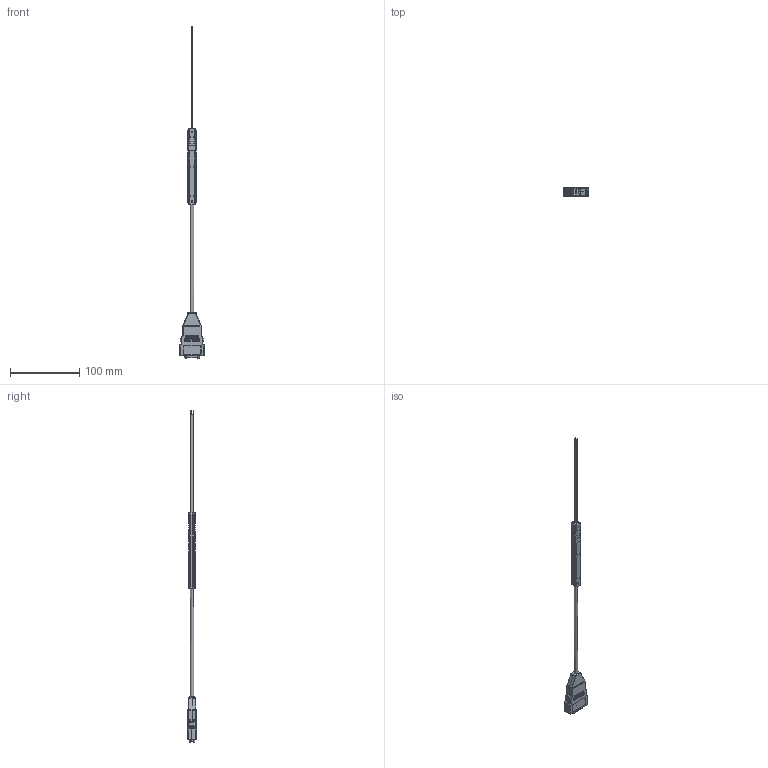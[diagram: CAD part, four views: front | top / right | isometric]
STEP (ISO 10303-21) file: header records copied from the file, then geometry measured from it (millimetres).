
FILE_DESCRIPTION (( 'STEP AP214' ), '1' );
FILE_NAME ('FP-NS-180-TS15M.STEP', '2025-07-30T19:22:58', ( '' ), ( '' ), 'SwSTEP 2.0', 'SolidWorks 2023', '' );
FILE_SCHEMA (( 'AUTOMOTIVE_DESIGN' ));
Length unit declared in the file: inch
Products named in the file (1): FP-NS-180-TS15M
Bounding box: 35.41 x 12.26 x 479.74 mm (x, y, z)
Topology: 9 solids, 17 shells, 2853 faces, 7176 edges, 4421 vertices
Faces by surface type: plane 1070, cylinder 872, bspline 687, cone 92, torus 90, sphere 42
Entity records: 101828 total; most frequent: CARTESIAN_POINT 39818, ORIENTED_EDGE 14236, DIRECTION 11209, EDGE_CURVE 7118, VERTEX_POINT 4418, AXIS2_PLACEMENT_3D 3919, LINE 3371, VECTOR 3371
